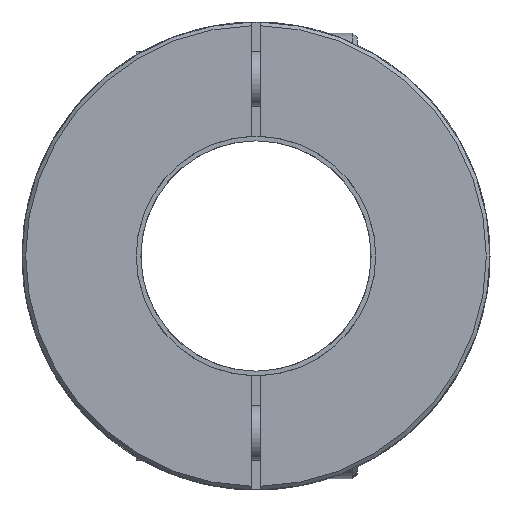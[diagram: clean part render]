
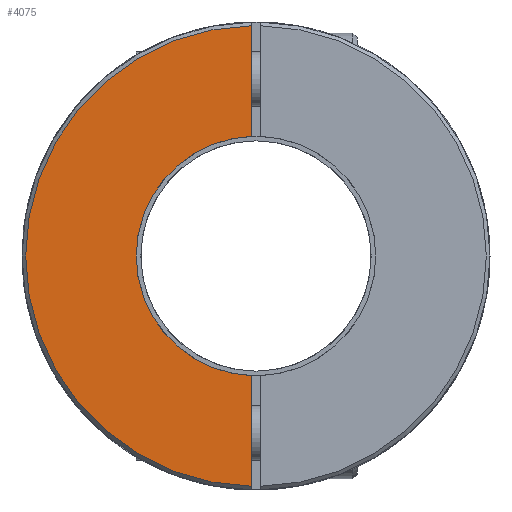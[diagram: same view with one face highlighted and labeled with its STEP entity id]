
A CAD part, front view. The second image highlights one B-rep face of the part: STEP entity #4075.
In plain terms, the highlighted planar face has unit normal (0, -1, 0).
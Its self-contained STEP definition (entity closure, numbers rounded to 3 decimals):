
#1=DIRECTION('',(0.,0.,-1.));
#2=VECTOR('',#1,12.005);
#3=CARTESIAN_POINT('',(-0.5,-47.65,24.995));
#4=LINE('',#3,#2);
#5=DIRECTION('',(0.,0.,-1.));
#6=VECTOR('',#5,12.005);
#7=CARTESIAN_POINT('',(-0.5,-47.65,-12.99));
#8=LINE('',#7,#6);
#72=CARTESIAN_POINT('',(0.,-47.65,0.));
#73=DIRECTION('',(0.,1.,0.));
#74=DIRECTION('',(-0.038,0.,-0.999));
#75=AXIS2_PLACEMENT_3D('',#72,#73,#74);
#3050=CARTESIAN_POINT('',(0.,-47.65,0.));
#3051=DIRECTION('',(0.,-1.,0.));
#3052=DIRECTION('',(-0.02,0.,1.));
#3053=AXIS2_PLACEMENT_3D('',#3050,#3051,#3052);
#3722=CARTESIAN_POINT('',(-0.5,-47.65,24.995));
#3723=CARTESIAN_POINT('',(-0.5,-47.65,12.99));
#3724=VERTEX_POINT('',#3722);
#3725=VERTEX_POINT('',#3723);
#3726=CARTESIAN_POINT('',(-0.5,-47.65,-12.99));
#3727=CARTESIAN_POINT('',(-0.5,-47.65,-24.995));
#3728=VERTEX_POINT('',#3726);
#3729=VERTEX_POINT('',#3727);
#4060=CARTESIAN_POINT('',(0.,-47.65,0.));
#4061=DIRECTION('',(0.,1.,0.));
#4062=DIRECTION('',(1.,0.,0.));
#4063=AXIS2_PLACEMENT_3D('',#4060,#4061,#4062);
#4064=PLANE('',#4063);
#4066=ORIENTED_EDGE('',*,*,#4065,.T.);
#4068=ORIENTED_EDGE('',*,*,#4067,.F.);
#4070=ORIENTED_EDGE('',*,*,#4069,.T.);
#4072=ORIENTED_EDGE('',*,*,#4071,.F.);
#4073=EDGE_LOOP('',(#4066,#4068,#4070,#4072));
#4074=FACE_OUTER_BOUND('',#4073,.F.);
#4075=ADVANCED_FACE('',(#4074),#4064,.F.);
#76=CIRCLE('',#75,13.);
#3054=CIRCLE('',#3053,25.);
#4065=EDGE_CURVE('',#3724,#3725,#4,.T.);
#4067=EDGE_CURVE('',#3728,#3725,#76,.T.);
#4069=EDGE_CURVE('',#3728,#3729,#8,.T.);
#4071=EDGE_CURVE('',#3724,#3729,#3054,.T.);
